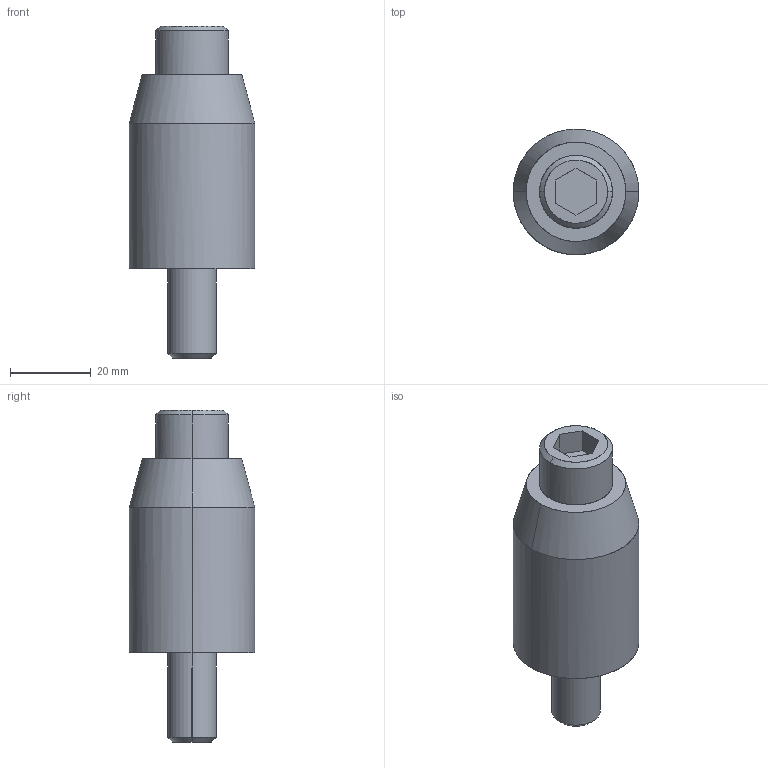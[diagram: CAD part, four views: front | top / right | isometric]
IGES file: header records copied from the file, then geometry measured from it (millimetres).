
Global section: file name: E:\UnigraphicsGraphicData\MISUMI_PRESS-PARTS\IGES\3d_sgc31-60_00801_r00.igs; native system: NX V5.0; preprocessor: UGS NX IGES V5.0; author: MISUMI; date: 20110105.162538; units: millimetre
Bounding box: 31 x 31 x 82 mm (x, y, z)
Surface area: 9786.6 mm2 (no closed solid volume)
Topology: 0 solids, 0 shells, 27 faces, 188 edges, 188 vertices
Faces by surface type: bspline 27
